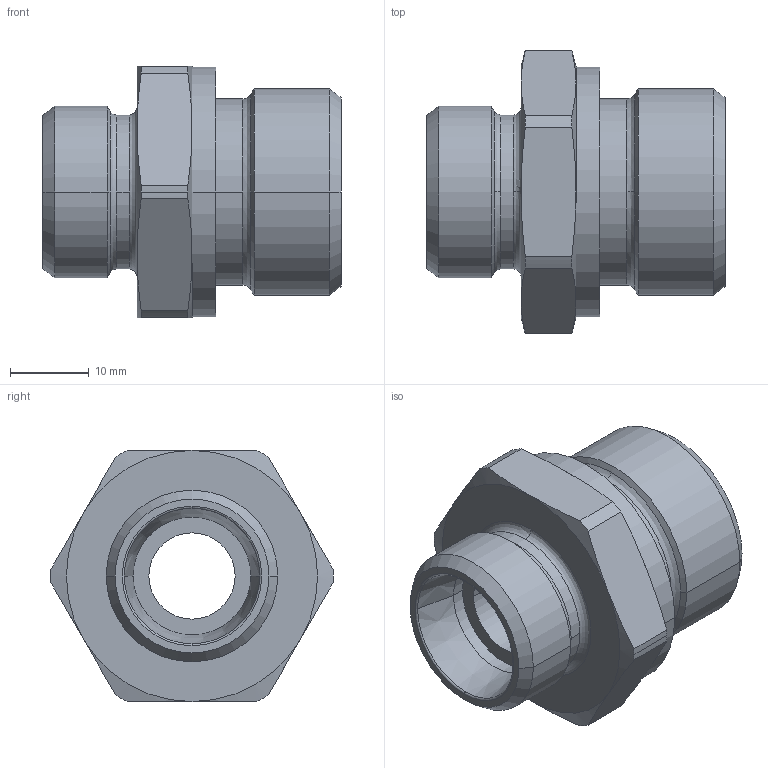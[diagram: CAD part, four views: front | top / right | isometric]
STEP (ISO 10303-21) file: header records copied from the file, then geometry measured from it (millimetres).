
FILE_DESCRIPTION((''),'2;1');
FILE_NAME('100548.stp','2007-10-30T14:23:00',(''),(''),'AutoCAD STEP 2000i','AutoCAD 2000i',', , ');
FILE_SCHEMA(('CONFIG_CONTROL_DESIGN'));
Length unit declared in the file: millimetre
Products named in the file (2): 100548.0; CHIAVE SMUSSATA#0
Assembly tree (1 placements, depth 2):
  100548.0
    CHIAVE SMUSSATA#0
Bounding box: 38 x 36 x 32 mm (x, y, z)
Volume: 16168 mm3; surface area: 6314 mm2
Topology: 1 solids, 1 shells, 75 faces, 185 edges, 117 vertices
Faces by surface type: cylinder 24, cone 24, plane 13, bspline 12, torus 2
Entity records: 2835 total; most frequent: CARTESIAN_POINT 955, DIRECTION 410, ORIENTED_EDGE 370, EDGE_CURVE 185, AXIS2_PLACEMENT_3D 184, CIRCLE 119, VERTEX_POINT 117, EDGE_LOOP 82
